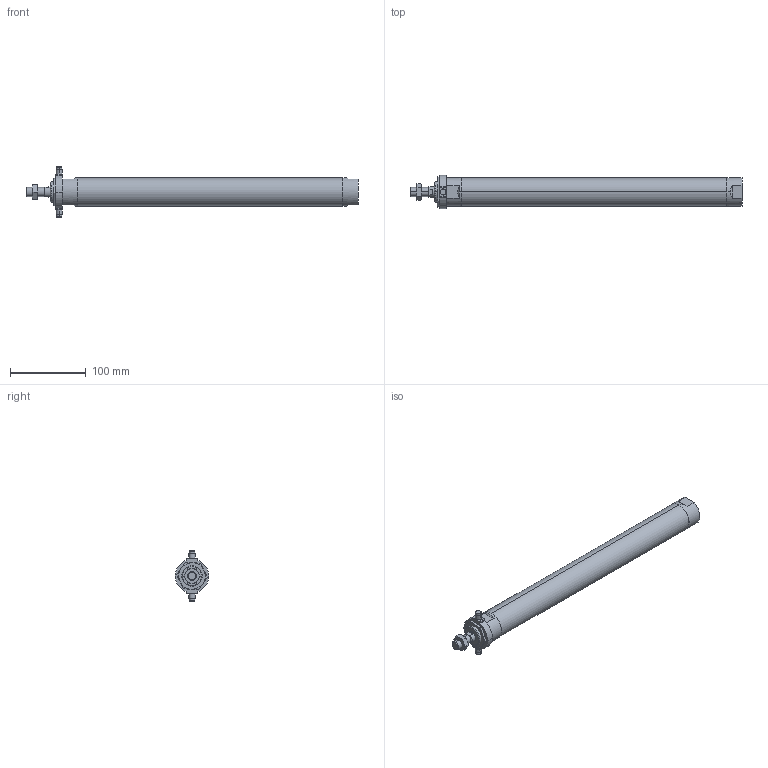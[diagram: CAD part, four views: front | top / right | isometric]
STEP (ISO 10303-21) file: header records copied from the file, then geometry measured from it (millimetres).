
FILE_DESCRIPTION (( 'STEP AP203' ), '1' );
FILE_NAME ('JGND2-32-300-T.STEP', '2016-08-04T03:04:04', ( '' ), ( '' ), 'SwSTEP 2.0', 'SolidWorks 2014', '' );
FILE_SCHEMA (( 'CONFIG_CONTROL_DESIGN' ));
Length unit declared in the file: millimetre
Products named in the file (5): JGND2-32-300-T; J#2-32-T; J#2-32-300(P)
Assembly tree (4 placements, depth 2):
  JGND2-32-300-T
    J#2-32-300(P)
    (unnamed)
    (unnamed)
    J#2-32-T
Bounding box: 437 x 44 x 66 mm (x, y, z)
Volume: 454853.9 mm3; surface area: 59321.8 mm2
Topology: 4 solids, 4 shells, 128 faces, 293 edges, 177 vertices
Faces by surface type: plane 42, cylinder 41, torus 24, cone 21
Entity records: 4519 total; most frequent: CARTESIAN_POINT 1160, DIRECTION 614, ORIENTED_EDGE 578, EDGE_CURVE 289, AXIS2_PLACEMENT_3D 253, VERTEX_POINT 177, EDGE_LOOP 142, FACE_OUTER_BOUND 128
